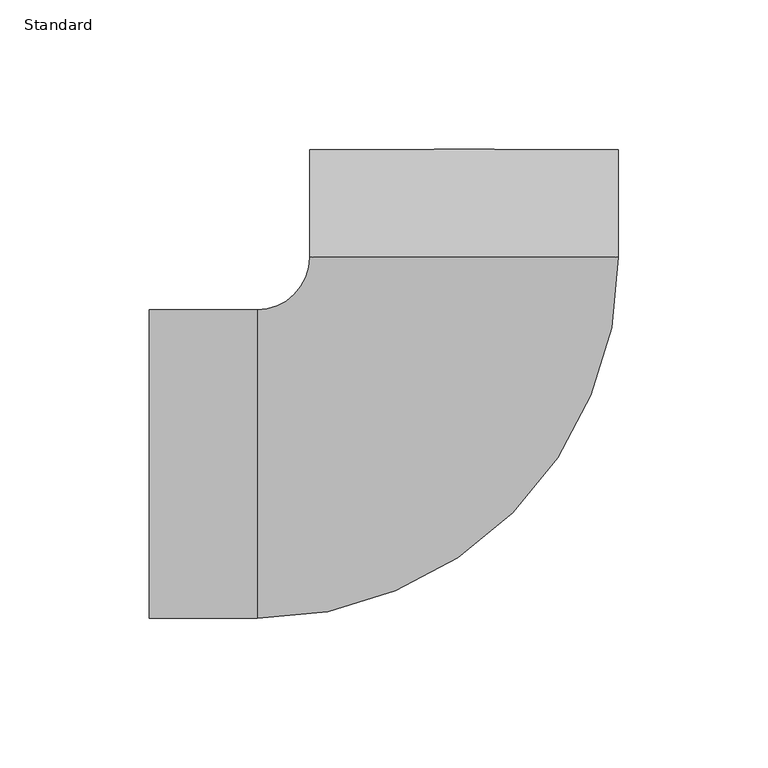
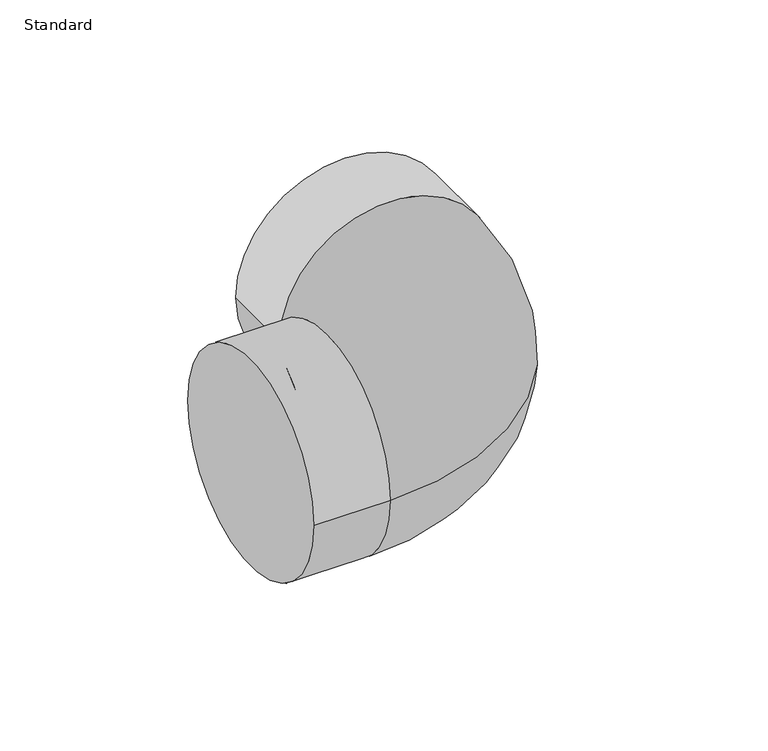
"""IFC4 building model written with IfcOpenShell, lengths in millimetres: pipe fitting geometry, Coude court PVC-C Pression PN 16 : Standard."""

from ifc_helpers import new_model, si_unit, point, frame, origin, place, context, project, spatial, circle_curve, ellipse_curve, trimmed, source, transform, mapped, element, save
from ifc_brep_helpers import plane_surface, cylinder_surface, revolved_surface, advanced_brep


def standard_a8c67635(model_context):
    return source(origin(), model_context, "Body", "AdvancedBrep", [
        advanced_brep(
        [(25.7214493, -51.6, 0.0), (25.7214493, 51.6, 0.0), (61.7214493, -51.6, 0.0), (61.7214493, 51.6, 0.0), (182.5613453, 69.239896, 0.0), (130.9613453, 69.239896, 51.6), (79.3613453, 69.239896, 0.0), (130.9613453, 69.239896, -51.6), (182.5613453, 105.239896, 0.0), (79.3613453, 105.239896, 0.0)],
        [
            (0, 1, circle_curve(frame((25.7214493, 0.0, 0.0), z_axis=(-1.0, 0.0, 0.0), x_axis=(0.0, 1.0, 0.0)), 51.6)),
            (1, 0, circle_curve(frame((25.7214493, 0.0, 0.0), z_axis=(-1.0, 0.0, 0.0), x_axis=(0.0, 1.0, 0.0)), 51.6)),
            (0, 2),
            (2, 3, circle_curve(frame((61.7214493, 0.0, 0.0), z_axis=(-1.0, 0.0, 0.0), x_axis=(0.0, 1.0, 0.0)), 51.6)),
            (3, 1),
            (3, 2, circle_curve(frame((61.7214493, 0.0, 0.0), z_axis=(-1.0, 0.0, 0.0), x_axis=(0.0, 1.0, 0.0)), 51.6)),
            (2, 4, circle_curve(frame((61.7214493, 69.239896, 0.0), z_axis=(0.0, 0.0, 1.0), x_axis=(1.0, 0.0, 0.0)), 120.839896)),
            (4, 5, circle_curve(frame((130.9613453, 69.239896, 0.0), z_axis=(0.0, -1.0, 0.0), x_axis=(1.0, 0.0, 0.0)), 51.6)),
            (5, 6, circle_curve(frame((130.9613453, 69.239896, 0.0), z_axis=(0.0, -1.0, 0.0), x_axis=(1.0, 0.0, 0.0)), 51.6)),
            (6, 3, circle_curve(frame((61.7214493, 69.239896, 0.0), z_axis=(0.0, 0.0, -1.0), x_axis=(1.0, 0.0, 0.0)), 17.639896)),
            (6, 7, circle_curve(frame((130.9613453, 69.239896, 0.0), z_axis=(0.0, -1.0, 0.0), x_axis=(1.0, 0.0, 0.0)), 51.6)),
            (7, 4, circle_curve(frame((130.9613453, 69.239896, 0.0), z_axis=(0.0, -1.0, 0.0), x_axis=(1.0, 0.0, 0.0)), 51.6)),
            (8, 9, circle_curve(frame((130.9613453, 105.239896, 0.0), z_axis=(0.0, 1.0, 0.0), x_axis=(-1.0, 0.0, 0.0)), 51.6)),
            (9, 8, circle_curve(frame((130.9613453, 105.239896, 0.0), z_axis=(0.0, 1.0, 0.0), x_axis=(-1.0, 0.0, 0.0)), 51.6)),
            (9, 6),
            (4, 8),
        ],
        [
            plane_surface(frame((25.7214493, 0.0, 0.0), z_axis=(-1.0, 0.0, 0.0), x_axis=(0.0, 0.0, 1.0))),
            cylinder_surface(frame((25.7214493, 0.0, 0.0), z_axis=(-1.0, 0.0, 0.0), x_axis=(0.0, 1.0, 0.0)), 51.6),
            revolved_surface(trimmed(ellipse_curve(frame((130.9613453, 69.239896, 0.0), z_axis=(0.0, 1.0, 0.0), x_axis=(1.0, 0.0, 0.0)), 51.6, 51.6), [point((79.3613453, 69.239896, 0.0))], [point((182.5613453, 69.239896, 0.0))], True, "CARTESIAN"), (61.7214493, 69.239896, 0.0), (0.0, 0.0, -1.0)),
            revolved_surface(trimmed(ellipse_curve(frame((130.9613453, 69.239896, 0.0), z_axis=(0.0, 1.0, 0.0), x_axis=(1.0, 0.0, 0.0)), 51.6, 51.6), [point((182.5613453, 69.239896, 0.0))], [point((79.3613453, 69.239896, 0.0))], True, "CARTESIAN"), (61.7214493, 69.239896, 0.0), (0.0, 0.0, -1.0)),
            plane_surface(frame((130.9613453, 105.239896, 0.0), z_axis=(0.0, 1.0, 0.0), x_axis=(0.0, 0.0, 1.0))),
            cylinder_surface(frame((130.9613453, 69.239896, 0.0), z_axis=(0.0, -1.0, 0.0), x_axis=(-1.0, 0.0, 0.0)), 51.6),
        ],
        [
            (0, [[1, 2]]),
            (1, [[-1, 3, 4, 5]]),
            (1, [[-2, -5, 6, -3]]),
            (2, [[7, 8, 9, 10, -4]]),
            (3, [[-7, -6, -10, 11, 12]]),
            (4, [[13, 14]]),
            (5, [[-14, 15, -9, -8, 16]]),
            (5, [[-13, -16, -12, -11, -15]]),
        ],
    ),
    ])


if __name__ == "__main__":
    model = new_model("IFC4")
    model_context = context("Model", 3, world=origin())
    ifc_project = project(units=[si_unit("LENGTHUNIT", "METRE", prefix="MILLI")], contexts=[model_context])
    site = spatial("IfcSite", under=ifc_project)
    building = spatial("IfcBuilding", under=site)
    placement = place(None, origin())
    standard_shape = standard_a8c67635(model_context)
    element("IfcPipeFitting", 1, ObjectType="Coude court PVC-C Pression PN 16 : Standard", at=placement, inside=building, context=model_context, shape_type="MappedRepresentation", body=[
        mapped(standard_shape, transform((0.0, 0.0, 0.0), x_axis=(1.0, 0.0, 0.0), y_axis=(0.0, 1.0, 0.0), z_axis=(0.0, 0.0, 1.0))),
    ])
    save(model, "model.ifc")
